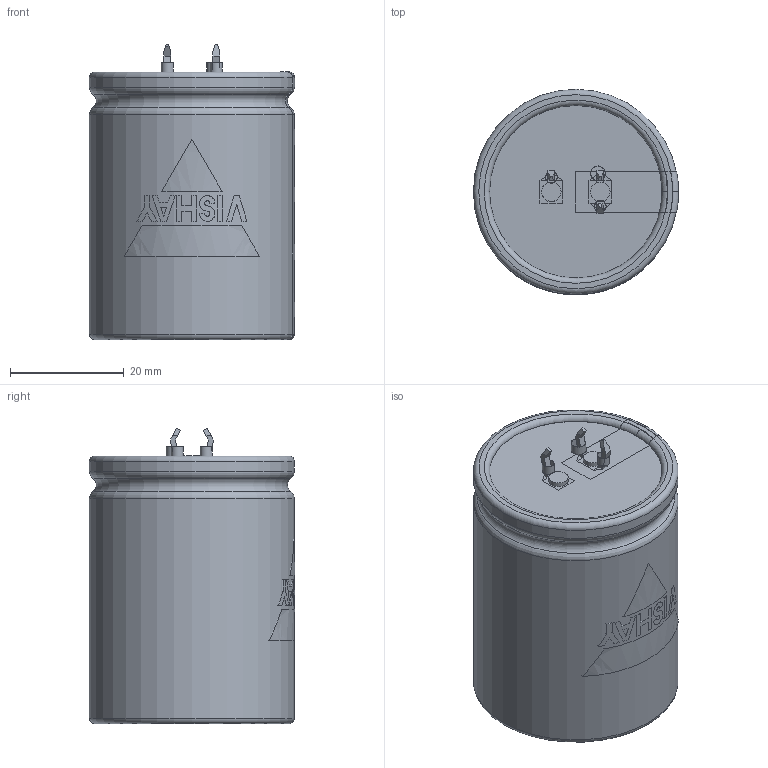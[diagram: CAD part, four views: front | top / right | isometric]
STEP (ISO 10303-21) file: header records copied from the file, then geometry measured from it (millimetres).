
FILE_DESCRIPTION(('FreeCAD Model'),'2;1');
FILE_NAME( 'C:/Users/Gebruiker/Documents/FreeCAD/SnapIn_35x45_3pin_4.0.step', '2020-11-12T21:19:51',('Author'),(''), 'Open CASCADE STEP processor 6.8','FreeCAD','Unknown');
FILE_SCHEMA(('AUTOMOTIVE_DESIGN_CC2 { 1 2 10303 214 -1 1 5 4 }'));
Length unit declared in the file: millimetre
Products named in the file (9): ASSEMBLY; TerminalMinKP; PCBHolesKP; TerminalPlus; Disc; BottomInsulation; Can3D; InkMinusBar; InkLogo
Assembly tree (8 placements, depth 2):
  ASSEMBLY
    TerminalMinKP
    PCBHolesKP
    TerminalPlus
    Disc
    BottomInsulation
    Can3D
    InkMinusBar
    InkLogo
Bounding box: 36.05 x 36.05 x 51.95 mm (x, y, z)
Volume: 54576.3 mm3; surface area: 18073.8 mm2
Topology: 17 solids, 17 shells, 209 faces, 509 edges, 332 vertices
Faces by surface type: plane 160, cylinder 31, torus 18
Full cylindrical faces by diameter (mm): 2 x2, 2.1 x2, 2.5 x1, 2.6 x1, 3.4 x2, 28.8 x2, 30.3 x1, 36 x2
Entity records: 21294 total; most frequent: CARTESIAN_POINT 9921, DIRECTION 1757, ORIENTED_EDGE 1018, PCURVE 1018, DEFINITIONAL_REPRESENTATION 1018, LINE 980, VECTOR 980, EDGE_CURVE 509
